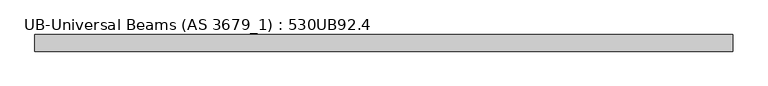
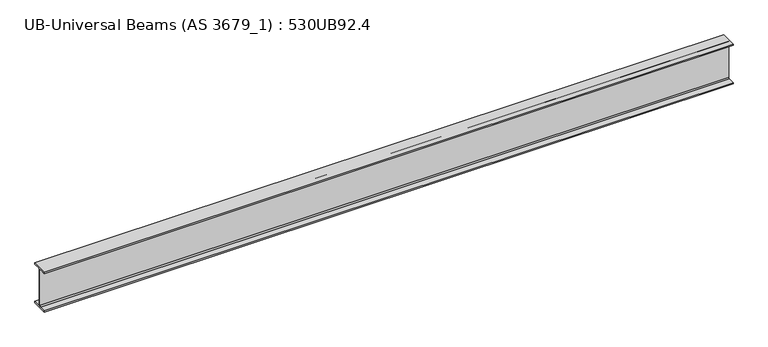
"""IFC4 building model written with IfcOpenShell, lengths in millimetres: beam geometry, UB-Universal Beams (AS 3679_1) : 530UB92.4."""

from ifc_helpers import new_model, si_unit, point, frame, frame_2d, origin, place, context, project, spatial, polyline, circle_curve, trimmed, segment, composite_curve, outline, extrude, source, transform, mapped, element, save


def ub_universal_beams_as_3679_1_530ub92_4_e2c91430(model_context):
    return source(origin(), model_context, "Body", "SweptSolid", [
        extrude(outline(composite_curve([segment(polyline([(104.5, -250.9), (104.5, -266.5), (-104.5, -266.5), (-104.5, -250.9), (-19.1, -250.9)]), True, "CONTINUOUS"), segment(trimmed(circle_curve(frame_2d((-19.1, -236.9)), 14.0), [point((-19.1, -250.9))], [point((-5.1, -236.9))], True, "CARTESIAN"), True, "CONTINUOUS"), segment(polyline([(-5.1, -236.9), (-5.1, 236.9)]), True, "CONTINUOUS"), segment(trimmed(circle_curve(frame_2d((-19.1, 236.9)), 14.0), [point((-5.1, 236.9))], [point((-19.1, 250.9))], True, "CARTESIAN"), True, "CONTINUOUS"), segment(polyline([(-19.1, 250.9), (-104.5, 250.9), (-104.5, 266.5), (104.5, 266.5), (104.5, 250.9), (19.1, 250.9)]), True, "CONTINUOUS"), segment(trimmed(circle_curve(frame_2d((19.1, 236.9)), 14.0), [point((19.1, 250.9))], [point((5.1, 236.9))], True, "CARTESIAN"), True, "CONTINUOUS"), segment(polyline([(5.1, 236.9), (5.1, -236.9)]), True, "CONTINUOUS"), segment(trimmed(circle_curve(frame_2d((19.1, -236.9)), 14.0), [point((5.1, -236.9))], [point((19.1, -250.9))], True, "CARTESIAN"), True, "CONTINUOUS"), segment(polyline([(19.1, -250.9), (104.5, -250.9)]), True, "CONTINUOUS")], self_intersect=False)), frame((-4320.3, 0.0, 0.0), z_axis=(1.0, 0.0, 0.0), x_axis=(0.0, 1.0, 0.0)), (0.0, 0.0, 1.0), 8757.8),
    ])


if __name__ == "__main__":
    model = new_model("IFC4")
    model_context = context("Model", 3, world=origin())
    ifc_project = project(units=[si_unit("LENGTHUNIT", "METRE", prefix="MILLI")], contexts=[model_context])
    site = spatial("IfcSite", under=ifc_project)
    building = spatial("IfcBuilding", under=site)
    placement = place(None, origin())
    ub_universal_beams_as_3679_1_530ub92_4_shape = ub_universal_beams_as_3679_1_530ub92_4_e2c91430(model_context)
    element("IfcBeam", 1, ObjectType="UB-Universal Beams (AS 3679_1) : 530UB92.4", at=placement, inside=building, context=model_context, shape_type="MappedRepresentation", body=[
        mapped(ub_universal_beams_as_3679_1_530ub92_4_shape, transform((0.0, 0.0, 0.0), x_axis=(1.0, 0.0, 0.0), y_axis=(0.0, 1.0, 0.0), z_axis=(0.0, 0.0, 1.0))),
    ])
    save(model, "model.ifc")
